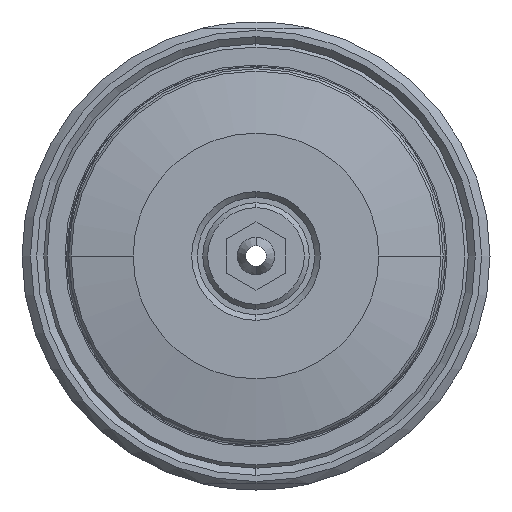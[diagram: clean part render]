
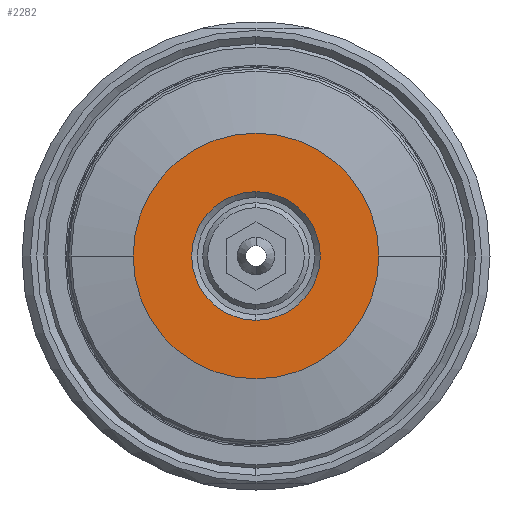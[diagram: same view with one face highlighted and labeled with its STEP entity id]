
A CAD part, left-side view. The second image highlights one B-rep face of the part: STEP entity #2282.
In plain terms, the highlighted planar face has unit normal (-1, 0, 0).
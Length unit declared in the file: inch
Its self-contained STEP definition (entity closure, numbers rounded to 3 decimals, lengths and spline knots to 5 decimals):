
#217 = CARTESIAN_POINT ( 'NONE',  ( -9.153, 0., 0. ) ) ;
#221 = CIRCLE ( 'NONE', #225, 0.64972 ) ;
#223 = DIRECTION ( 'NONE',  ( 0., 1., 0. ) ) ;
#224 = DIRECTION ( 'NONE',  ( -1., 0., 0. ) ) ;
#225 = AXIS2_PLACEMENT_3D ( 'NONE', #217, #224, #223 ) ;
#2223 = EDGE_CURVE ( 'NONE', #2362, #2360, #221, .T. ) ;
#2234 = EDGE_CURVE ( 'NONE', #2279, #2280, #9813, .T. ) ;
#2268 = EDGE_CURVE ( 'NONE', #2280, #2279, #8587, .T. ) ;
#2271 = ORIENTED_EDGE ( 'NONE', *, *, #2272, .T. ) ;
#2272 = EDGE_CURVE ( 'NONE', #2360, #2362, #8566, .T. ) ;
#2279 = VERTEX_POINT ( 'NONE', #8534 ) ;
#2280 = VERTEX_POINT ( 'NONE', #8532 ) ;
#2281 = EDGE_LOOP ( 'NONE', ( #2271, #2300 ) ) ;
#2282 = ADVANCED_FACE ( 'NONE', ( #8557, #8556 ), #8716, .T. ) ;
#2300 = ORIENTED_EDGE ( 'NONE', *, *, #2223, .T. ) ;
#2301 = EDGE_LOOP ( 'NONE', ( #2303, #2304 ) ) ;
#2303 = ORIENTED_EDGE ( 'NONE', *, *, #2268, .F. ) ;
#2304 = ORIENTED_EDGE ( 'NONE', *, *, #2234, .F. ) ;
#2360 = VERTEX_POINT ( 'NONE', #8803 ) ;
#2362 = VERTEX_POINT ( 'NONE', #8794 ) ;
#8532 = CARTESIAN_POINT ( 'NONE',  ( -9.153, 0., 0.34 ) ) ;
#8534 = CARTESIAN_POINT ( 'NONE',  ( -9.153, 0., -0.34 ) ) ;
#8556 = FACE_BOUND ( 'NONE', #2301, .T. ) ;
#8557 = FACE_OUTER_BOUND ( 'NONE', #2281, .T. ) ;
#8566 = CIRCLE ( 'NONE', #8593, 0.64972 ) ;
#8585 = CARTESIAN_POINT ( 'NONE',  ( -9.153, 0., 0. ) ) ;
#8586 = AXIS2_PLACEMENT_3D ( 'NONE', #8585, #8597, #8596 ) ;
#8587 = CIRCLE ( 'NONE', #8586, 0.34 ) ;
#8590 = DIRECTION ( 'NONE',  ( 0., 1., 0. ) ) ;
#8591 = DIRECTION ( 'NONE',  ( -1., 0., 0. ) ) ;
#8592 = CARTESIAN_POINT ( 'NONE',  ( -9.153, 0., 0. ) ) ;
#8593 = AXIS2_PLACEMENT_3D ( 'NONE', #8592, #8591, #8590 ) ;
#8596 = DIRECTION ( 'NONE',  ( 0., 0., 1. ) ) ;
#8597 = DIRECTION ( 'NONE',  ( -1., 0., 0. ) ) ;
#8702 = DIRECTION ( 'NONE',  ( 0., 0., 1. ) ) ;
#8703 = DIRECTION ( 'NONE',  ( -1., 0., 0. ) ) ;
#8704 = CARTESIAN_POINT ( 'NONE',  ( -9.153, 0., 0. ) ) ;
#8705 = AXIS2_PLACEMENT_3D ( 'NONE', #8704, #8703, #8702 ) ;
#8716 = PLANE ( 'NONE',  #8705 ) ;
#8794 = CARTESIAN_POINT ( 'NONE',  ( -9.153, 0.64972, 0. ) ) ;
#8803 = CARTESIAN_POINT ( 'NONE',  ( -9.153, -0.64972, 0. ) ) ;
#9789 = DIRECTION ( 'NONE',  ( 0., 0., 1. ) ) ;
#9808 = DIRECTION ( 'NONE',  ( -1., 0., 0. ) ) ;
#9809 = CARTESIAN_POINT ( 'NONE',  ( -9.153, 0., 0. ) ) ;
#9811 = AXIS2_PLACEMENT_3D ( 'NONE', #9809, #9808, #9789 ) ;
#9813 = CIRCLE ( 'NONE', #9811, 0.34 ) ;
